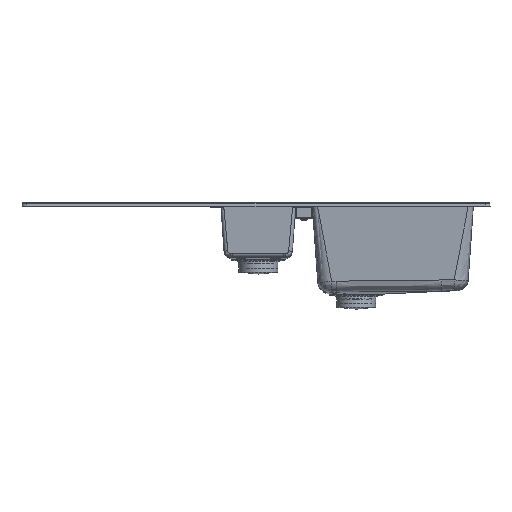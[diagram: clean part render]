
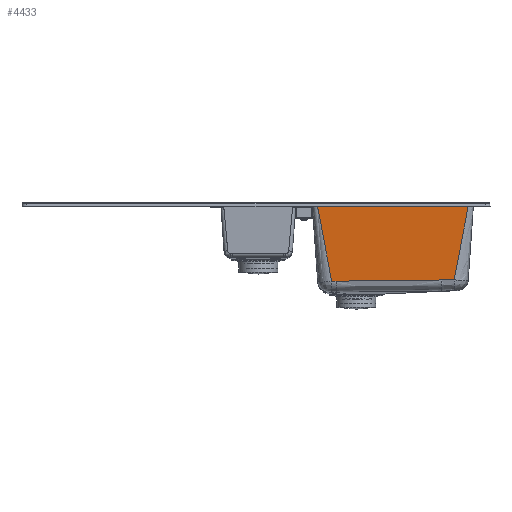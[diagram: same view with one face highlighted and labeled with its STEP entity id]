
A CAD part, front view. The second image highlights one B-rep face of the part: STEP entity #4433.
In plain terms, the highlighted planar face has unit normal (0, -0.998, -0.07).
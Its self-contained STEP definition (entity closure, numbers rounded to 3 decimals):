
#713=B_SPLINE_CURVE_WITH_KNOTS('',3,(#24883,#24884,#24885,#24886,#24887,
#24888,#24889,#24890,#24891,#24892,#24893,#24894,#24895,#24896,#24897),
 .UNSPECIFIED.,.F.,.F.,(4,1,1,1,1,1,1,1,1,1,1,1,4),(0.,0.083,
0.167,0.25,0.333,0.417,0.5,0.583,
0.667,0.75,0.833,0.917,1.),.UNSPECIFIED.);
#714=B_SPLINE_CURVE_WITH_KNOTS('',1,(#24898,#24899),.UNSPECIFIED.,.F.,.F.,
(2,2),(0.,1.),.UNSPECIFIED.);
#715=B_SPLINE_CURVE_WITH_KNOTS('',1,(#24900,#24901),.UNSPECIFIED.,.F.,.F.,
(2,2),(0.,1.),.UNSPECIFIED.);
#716=B_SPLINE_CURVE_WITH_KNOTS('',1,(#24902,#24903),.UNSPECIFIED.,.F.,.F.,
(2,2),(0.,1.),.UNSPECIFIED.);
#4433=ADVANCED_FACE('',(#5234),#18322,.T.);
#5234=FACE_OUTER_BOUND('',#6036,.T.);
#6036=EDGE_LOOP('',(#7416,#7417,#7418,#7419,#7420,#7421));
#7416=ORIENTED_EDGE('',*,*,#11782,.F.);
#7417=ORIENTED_EDGE('',*,*,#11783,.T.);
#7418=ORIENTED_EDGE('',*,*,#11784,.T.);
#7419=ORIENTED_EDGE('',*,*,#11785,.T.);
#7420=ORIENTED_EDGE('',*,*,#11786,.F.);
#7421=ORIENTED_EDGE('',*,*,#11787,.F.);
#11782=EDGE_CURVE('',#16097,#16096,#713,.T.);
#11783=EDGE_CURVE('',#16097,#16098,#714,.T.);
#11784=EDGE_CURVE('',#16098,#16099,#715,.T.);
#11785=EDGE_CURVE('',#16099,#16100,#716,.T.);
#11786=EDGE_CURVE('',#16101,#16100,#14621,.T.);
#11787=EDGE_CURVE('',#16096,#16101,#14622,.T.);
#14621=(
BOUNDED_CURVE()
B_SPLINE_CURVE(2,(#24904,#24905,#24906),.UNSPECIFIED.,.F.,.F.)
B_SPLINE_CURVE_WITH_KNOTS((3,3),(0.,0.01),.UNSPECIFIED.)
CURVE()
GEOMETRIC_REPRESENTATION_ITEM()
RATIONAL_B_SPLINE_CURVE((1.,1.,1.))
REPRESENTATION_ITEM('')
);
#14622=(
BOUNDED_CURVE()
B_SPLINE_CURVE(2,(#24907,#24908,#24909),.UNSPECIFIED.,.F.,.F.)
B_SPLINE_CURVE_WITH_KNOTS((3,3),(0.,0.001),.UNSPECIFIED.)
CURVE()
GEOMETRIC_REPRESENTATION_ITEM()
RATIONAL_B_SPLINE_CURVE((1.,1.,1.))
REPRESENTATION_ITEM('')
);
#16096=VERTEX_POINT('',#24877);
#16097=VERTEX_POINT('',#24878);
#16098=VERTEX_POINT('',#24879);
#16099=VERTEX_POINT('',#24880);
#16100=VERTEX_POINT('',#24881);
#16101=VERTEX_POINT('',#24882);
#18322=PLANE('',#18400);
#18400=AXIS2_PLACEMENT_3D('',#24876,#18462,$);
#18462=DIRECTION('',(0.,-0.998,-0.07));
#24876=CARTESIAN_POINT('',(412.748,-267.002,-171.574));
#24877=CARTESIAN_POINT('',(345.684,-267.473,-164.844));
#24878=CARTESIAN_POINT('',(373.481,-267.515,-164.237));
#24879=CARTESIAN_POINT('',(404.584,-278.87,-1.86));
#24880=CARTESIAN_POINT('',(80.411,-278.87,-1.86));
#24881=CARTESIAN_POINT('',(111.76,-267.296,-167.376));
#24882=CARTESIAN_POINT('',(121.079,-267.299,-167.336));
#24883=CARTESIAN_POINT('',(373.481,-267.515,-164.237));
#24884=CARTESIAN_POINT('',(372.243,-267.513,-164.272));
#24885=CARTESIAN_POINT('',(369.876,-267.508,-164.338));
#24886=CARTESIAN_POINT('',(366.676,-267.502,-164.423));
#24887=CARTESIAN_POINT('',(363.779,-267.497,-164.496));
#24888=CARTESIAN_POINT('',(361.129,-267.493,-164.56));
#24889=CARTESIAN_POINT('',(358.682,-267.489,-164.616));
#24890=CARTESIAN_POINT('',(356.423,-267.486,-164.664));
#24891=CARTESIAN_POINT('',(354.347,-267.483,-164.706));
#24892=CARTESIAN_POINT('',(352.432,-267.48,-164.742));
#24893=CARTESIAN_POINT('',(350.643,-267.478,-164.773));
#24894=CARTESIAN_POINT('',(348.945,-267.476,-164.8));
#24895=CARTESIAN_POINT('',(347.307,-267.474,-164.824));
#24896=CARTESIAN_POINT('',(346.222,-267.473,-164.838));
#24897=CARTESIAN_POINT('',(345.684,-267.473,-164.844));
#24898=CARTESIAN_POINT('',(373.481,-267.515,-164.237));
#24899=CARTESIAN_POINT('',(404.584,-278.87,-1.86));
#24900=CARTESIAN_POINT('',(404.584,-278.87,-1.86));
#24901=CARTESIAN_POINT('',(80.411,-278.87,-1.86));
#24902=CARTESIAN_POINT('',(80.411,-278.87,-1.86));
#24903=CARTESIAN_POINT('',(111.76,-267.296,-167.376));
#24904=CARTESIAN_POINT('',(121.079,-267.299,-167.336));
#24905=CARTESIAN_POINT('',(116.42,-267.296,-167.38));
#24906=CARTESIAN_POINT('',(111.76,-267.296,-167.376));
#24907=CARTESIAN_POINT('',(345.684,-267.473,-164.844));
#24908=CARTESIAN_POINT('',(233.382,-267.38,-166.168));
#24909=CARTESIAN_POINT('',(121.079,-267.299,-167.336));
